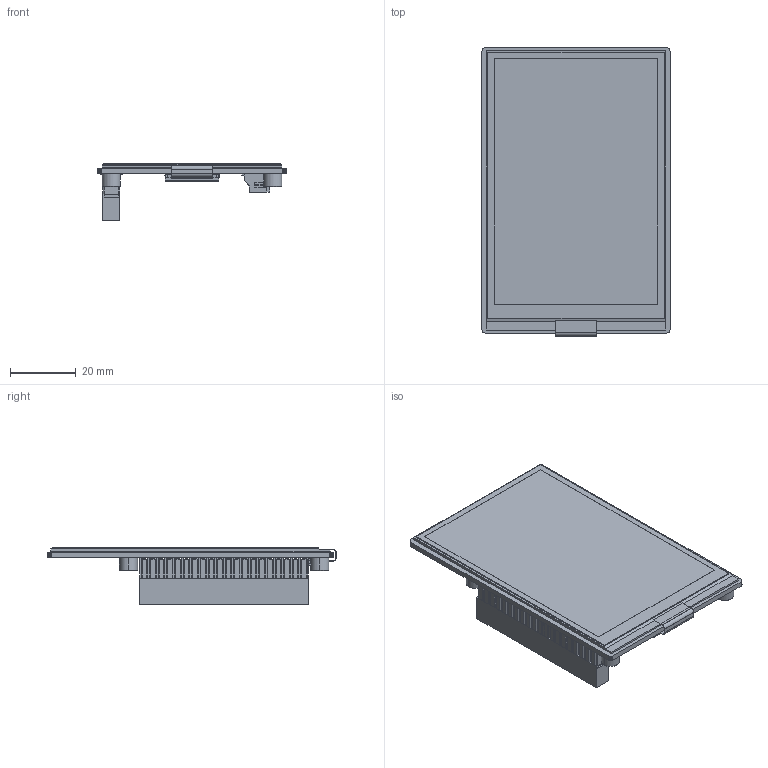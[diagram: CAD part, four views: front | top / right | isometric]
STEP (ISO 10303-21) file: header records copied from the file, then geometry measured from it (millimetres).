
FILE_DESCRIPTION((''),'2;1');
FILE_NAME('3_52INCH_E-PAPER_HAT_ASM','2024-06-24T16:57:57',('xiaojisheng'),(''),'CREO PARAMETRIC BY PTC INC, 2021063','CREO PARAMETRIC BY PTC INC, 2021063','');
FILE_SCHEMA(('CONFIG_CONTROL_DESIGN','SHAPE_APPEARANCE_LAYERS_GROUPS'));
Products named in the file (60): 3_52INCH-E-PAPER; BOARD; CAPC1608_0603_; C1_ASM; C2_ASM; C3_ASM; C4_ASM; C5_ASM; C6_ASM; C7_ASM; C8_ASM; C9_ASM; C10_ASM; C11_ASM; C12_ASM; C13_ASM; C14_ASM; C15_ASM; C16_ASM; C17_ASM; CIRCUITWORKS-SOD123; D1_ASM; D2_ASM; D3_ASM; RESC1608_0603_; J1_ASM; HEADER-FPC-ZIF-SMD-HORIZO-15047; HEADER-FPC-ZIF-SMD-HORIZO-76966; J3_ASM; INDC3225_1210_; L1_ASM; ALSROBOT-SOT23; Q1_ASM; Q31_ASM; Q32_ASM; R1_ASM; R2_ASM; R3_ASM; R33_ASM; R34_ASM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
Assembly tree (91 placements, depth 8):
  3_52INCH_E-PAPER_HAT_ASM
    3_52INCH-E-PAPER
    3_52INCH_E-PAPER_HAT-PCBA_ASM
      PCB_ASM
        BOARD
        C1_ASM
          CAPC1608_0603_
        C2_ASM
          CAPC1608_0603_
        C3_ASM
          CAPC1608_0603_
        C4_ASM
          CAPC1608_0603_
        C5_ASM
          CAPC1608_0603_
        C6_ASM
          CAPC1608_0603_
        C7_ASM
          CAPC1608_0603_
        C8_ASM
          CAPC1608_0603_
        C9_ASM
          CAPC1608_0603_
        C10_ASM
          CAPC1608_0603_
        C11_ASM
          CAPC1608_0603_
        C12_ASM
          CAPC1608_0603_
        C13_ASM
          CAPC1608_0603_
        C14_ASM
          CAPC1608_0603_
        C15_ASM
          CAPC1608_0603_
        C16_ASM
          CAPC1608_0603_
        C17_ASM
          CAPC1608_0603_
        D1_ASM
          CIRCUITWORKS-SOD123
        D2_ASM
          CIRCUITWORKS-SOD123
        D3_ASM
          CIRCUITWORKS-SOD123
        J1_ASM
          RESC1608_0603_
        J3_ASM
          HEADER-FPC-ZIF-SMD-HORIZO-15047
          HEADER-FPC-ZIF-SMD-HORIZO-76966
        L1_ASM
          INDC3225_1210_
        Q1_ASM
          ALSROBOT-SOT23
        Q31_ASM
          ALSROBOT-SOT23
        Q32_ASM
          ALSROBOT-SOT23
        R1_ASM
          RESC1608_0603_
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Bounding box: 57.02 x 87.51 x 17.1 mm (x, y, z)
Volume: 16849.3 mm3; surface area: 29804.2 mm2
Topology: 50 solids, 50 shells, 4284 faces, 11209 edges, 6942 vertices
Faces by surface type: plane 2921, cylinder 1069, sphere 224, bspline 28, cone 24, extrusion 18
Entity records: 124898 total; most frequent: CARTESIAN_POINT 19464, ORIENTED_EDGE 15940, DIRECTION 14873, EDGE_CURVE 7970, PRESENTATION_STYLE_ASSIGNMENT 7374, VECTOR 6881, LINE 6875, STYLED_ITEM 6416
